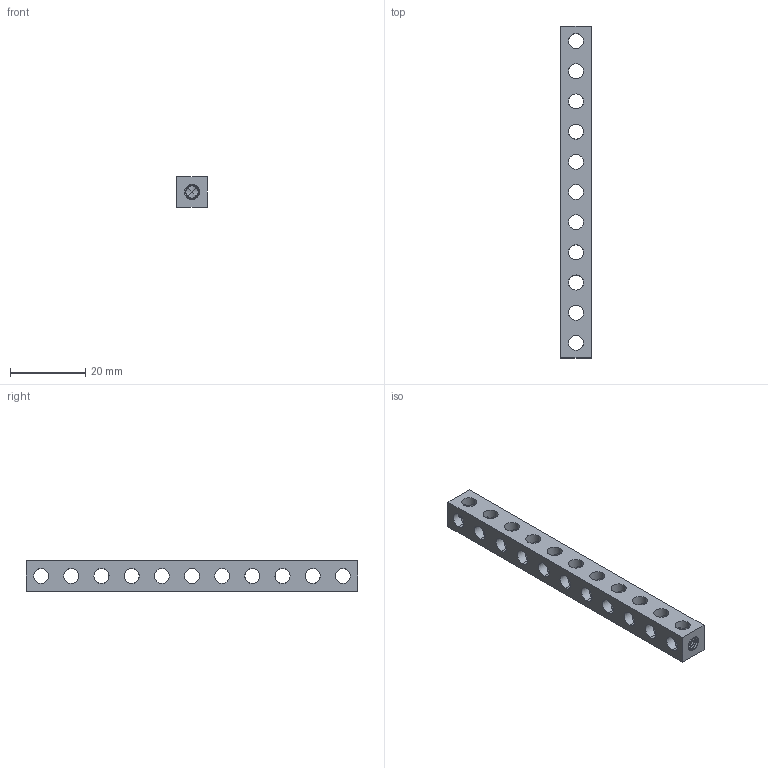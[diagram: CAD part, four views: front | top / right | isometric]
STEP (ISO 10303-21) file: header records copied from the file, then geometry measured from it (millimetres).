
FILE_DESCRIPTION (( 'STEP AP203' ), '1' );
FILE_NAME ('1106-0011-0088.STEP', '2018-02-20T22:48:46', ( '' ), ( '' ), 'SwSTEP 2.0', 'SolidWorks 2016', '' );
FILE_SCHEMA (( 'CONFIG_CONTROL_DESIGN' ));
Products named in the file (1): 1106-0011-0088
Bounding box: 8 x 88 x 8 mm (x, y, z)
Volume: 3761.9 mm3; surface area: 4042.4 mm2
Topology: 1 solids, 1 shells, 246 faces, 750 edges, 478 vertices
Faces by surface type: cylinder 196, bspline 36, cone 8, plane 6
Entity records: 48196 total; most frequent: CARTESIAN_POINT 42654, ORIENTED_EDGE 1500, DIRECTION 800, EDGE_CURVE 750, VERTEX_POINT 478, AXIS2_PLACEMENT_3D 311, EDGE_LOOP 292, FACE_OUTER_BOUND 246
